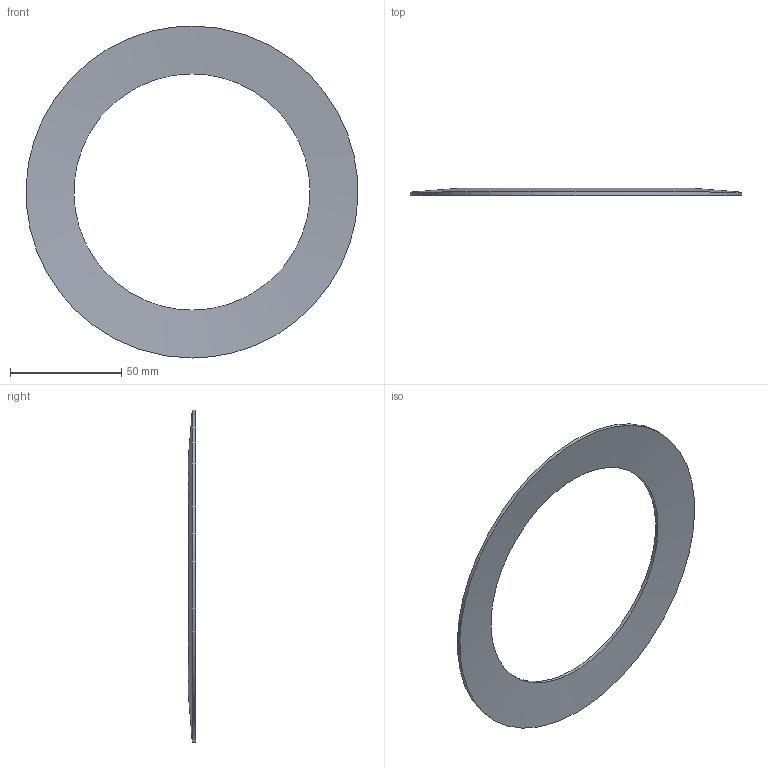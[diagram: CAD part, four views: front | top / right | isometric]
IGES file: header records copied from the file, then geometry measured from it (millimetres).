
Global section: file name: ST.1490.1060.0150; native system: Autodesk Inventor 2026; preprocessor: unknown; author: J. Iwanek; date: 20260918.103929; units: millimetre
Bounding box: 148.88 x 3.2 x 149 mm (x, y, z)
Volume: 12962.6 mm3; surface area: 18489.3 mm2
Topology: 1 solids, 1 shells, 4 faces, 12 edges, 8 vertices
Faces by surface type: bspline 4
